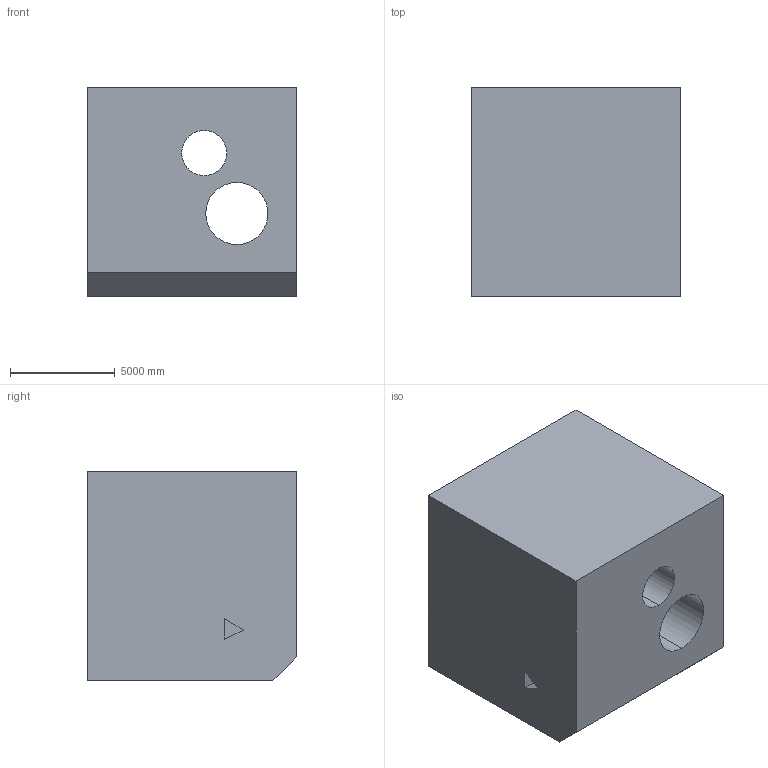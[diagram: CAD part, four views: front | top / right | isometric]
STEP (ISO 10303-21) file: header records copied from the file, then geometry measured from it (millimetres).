
FILE_DESCRIPTION (( 'STEP AP203' ), '1' );
FILE_NAME ('31.STEP', '2022-08-30T14:05:47', ( 'user' ), ( '' ), 'SwSTEP 2.0', 'SolidWorks 2021', '' );
FILE_SCHEMA (( 'CONFIG_CONTROL_DESIGN' ));
Length unit declared in the file: centimetre
Products named in the file (1): 31
Bounding box: 10000 x 10000 x 10000 mm (x, y, z)
Volume: 886943695419.1 mm3; surface area: 738337360.1 mm2
Topology: 1 solids, 1 shells, 15 faces, 36 edges, 24 vertices
Faces by surface type: plane 11, cylinder 4
Entity records: 523 total; most frequent: CARTESIAN_POINT 76, DIRECTION 76, ORIENTED_EDGE 72, EDGE_CURVE 36, LINE 28, VECTOR 28, AXIS2_PLACEMENT_3D 24, VERTEX_POINT 24
